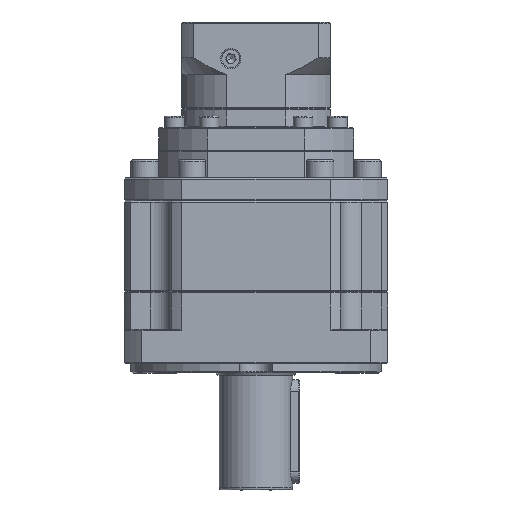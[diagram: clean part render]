
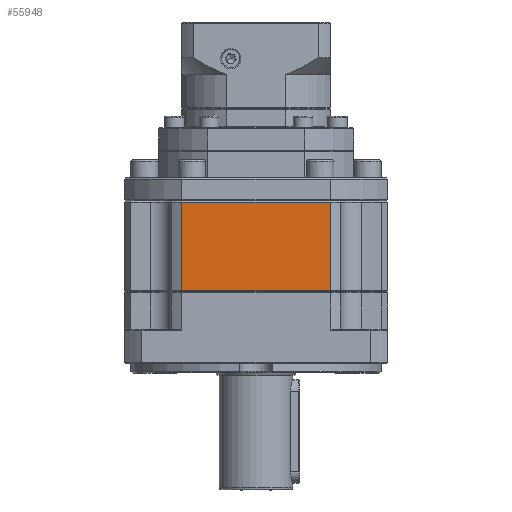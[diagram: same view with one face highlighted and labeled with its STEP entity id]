
A CAD part, front view. The second image highlights one B-rep face of the part: STEP entity #55948.
In plain terms, the highlighted planar face has unit normal (0, -1, 0).
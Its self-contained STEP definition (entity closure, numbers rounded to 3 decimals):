
#6564 = VECTOR ( 'NONE', #120715, 1000. ) ;
#10558 = LINE ( 'NONE', #53200, #83926 ) ;
#12168 = EDGE_CURVE ( 'NONE', #117804, #79305, #13026, .T. ) ;
#13026 = LINE ( 'NONE', #19580, #125680 ) ;
#15432 = EDGE_CURVE ( 'NONE', #79305, #56723, #10558, .T. ) ;
#16324 = EDGE_LOOP ( 'NONE', ( #76402, #35590, #63052, #90871 ) ) ;
#19580 = CARTESIAN_POINT ( 'NONE',  ( 78.586, 37.086, -79.057 ) ) ;
#20225 = PLANE ( 'NONE',  #94599 ) ;
#30627 = DIRECTION ( 'NONE',  ( 0., 1., 0. ) ) ;
#35590 = ORIENTED_EDGE ( 'NONE', *, *, #15432, .F. ) ;
#38508 = CARTESIAN_POINT ( 'NONE',  ( 46.186, 37.086, -79.057 ) ) ;
#41884 = VERTEX_POINT ( 'NONE', #54458 ) ;
#53200 = CARTESIAN_POINT ( 'NONE',  ( 110.986, 37.086, -78.557 ) ) ;
#54025 = CARTESIAN_POINT ( 'NONE',  ( 136.086, 37.086, -78.557 ) ) ;
#54458 = CARTESIAN_POINT ( 'NONE',  ( 46.186, 37.086, -117.557 ) ) ;
#55948 = ADVANCED_FACE ( 'NONE', ( #62164 ), #20225, .F. ) ;
#56723 = VERTEX_POINT ( 'NONE', #137405 ) ;
#61101 = VECTOR ( 'NONE', #106324, 1000. ) ;
#62164 = FACE_OUTER_BOUND ( 'NONE', #16324, .T. ) ;
#63052 = ORIENTED_EDGE ( 'NONE', *, *, #12168, .F. ) ;
#63265 = EDGE_CURVE ( 'NONE', #41884, #117804, #114029, .T. ) ;
#70766 = EDGE_CURVE ( 'NONE', #56723, #41884, #127640, .T. ) ;
#76402 = ORIENTED_EDGE ( 'NONE', *, *, #70766, .F. ) ;
#79305 = VERTEX_POINT ( 'NONE', #109893 ) ;
#83508 = DIRECTION ( 'NONE',  ( 1., 0., 0. ) ) ;
#83926 = VECTOR ( 'NONE', #129524, 1000. ) ;
#85750 = CARTESIAN_POINT ( 'NONE',  ( 136.086, 37.086, -117.557 ) ) ;
#90871 = ORIENTED_EDGE ( 'NONE', *, *, #63265, .F. ) ;
#94599 = AXIS2_PLACEMENT_3D ( 'NONE', #54025, #30627, #106604 ) ;
#106324 = DIRECTION ( 'NONE',  ( -1., 0., 0. ) ) ;
#106604 = DIRECTION ( 'NONE',  ( -1., 0., 0. ) ) ;
#109893 = CARTESIAN_POINT ( 'NONE',  ( 110.986, 37.086, -79.057 ) ) ;
#114029 = LINE ( 'NONE', #131697, #6564 ) ;
#117804 = VERTEX_POINT ( 'NONE', #38508 ) ;
#120715 = DIRECTION ( 'NONE',  ( 0., 0., 1. ) ) ;
#125680 = VECTOR ( 'NONE', #83508, 1000. ) ;
#127640 = LINE ( 'NONE', #85750, #61101 ) ;
#129524 = DIRECTION ( 'NONE',  ( 0., 0., -1. ) ) ;
#131697 = CARTESIAN_POINT ( 'NONE',  ( 46.186, 37.086, -78.557 ) ) ;
#137405 = CARTESIAN_POINT ( 'NONE',  ( 110.986, 37.086, -117.557 ) ) ;
